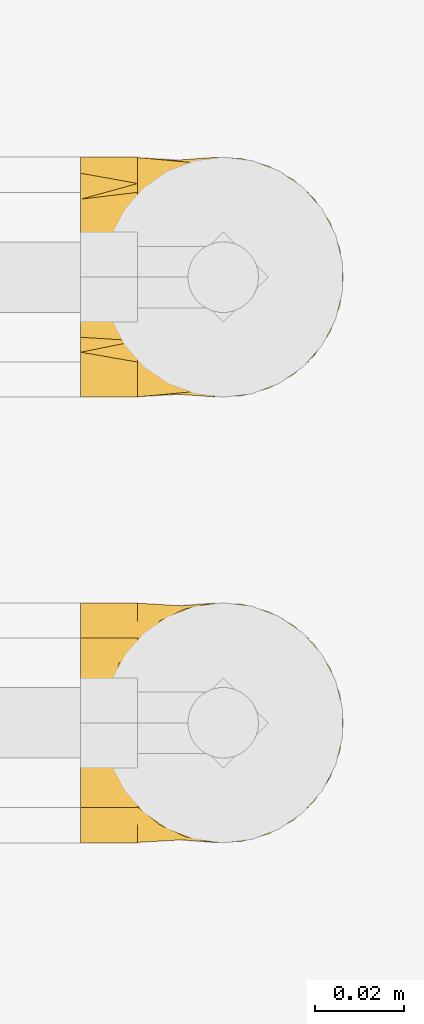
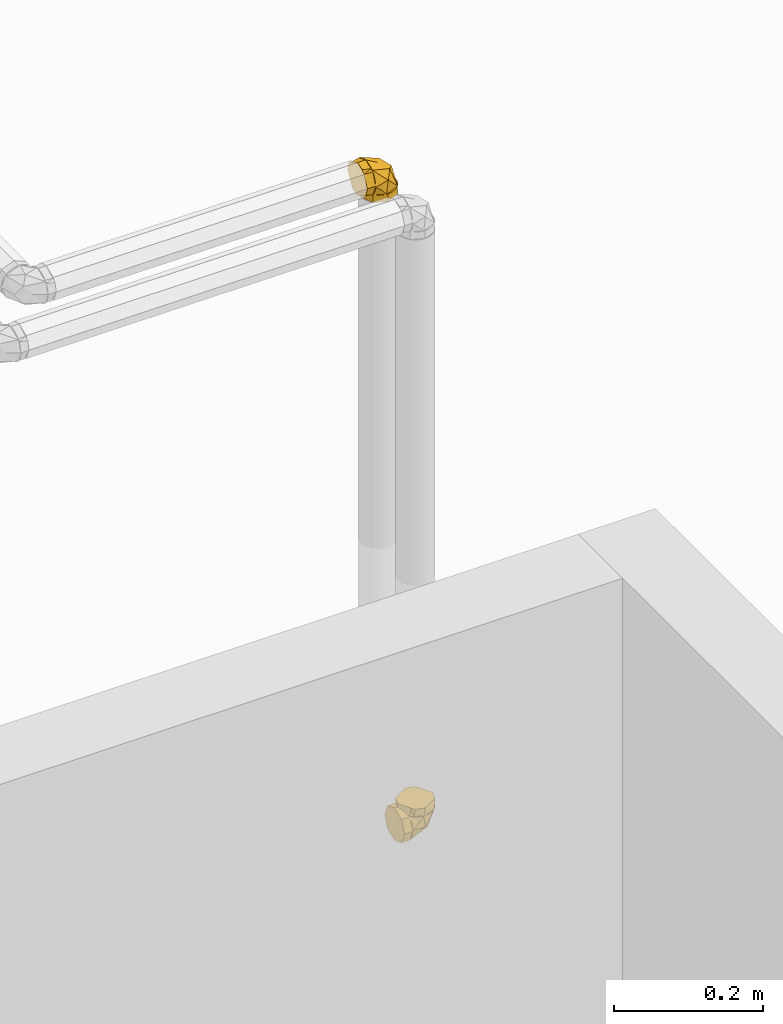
# One storey, part 297 of 652: 2 coverings.
"""IFC2X3 building model written with IfcOpenShell, lengths in millimetres."""

from ifc_helpers import new_model, entity, si_unit, converted_unit, direction, frame, origin, place, context, subcontext, project, spatial, face_set, surface_model, material, type_object, element, save


model = new_model("IFC2X3")

# Units and contexts
model_context = context("Model", 3, precision=0.01, world=frame((0.0, 0.0, 308426.39999999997)), true_north=direction((6.123233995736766e-17, 1.0)))
plan_context = context("Plan", 3, precision=0.01, world=frame((0.0, 0.0, 308426.39999999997)), true_north=direction((6.123233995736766e-17, 1.0)))
body_context = subcontext(model_context, "Body", "Model", "MODEL_VIEW")
ifc_project = project(units=[si_unit("LENGTHUNIT", "METRE", prefix="MILLI"), si_unit("AREAUNIT", "SQUARE_METRE"), si_unit("VOLUMEUNIT", "CUBIC_METRE"), converted_unit("PLANEANGLEUNIT", "DEGREE", entity("IfcPlaneAngleMeasure", 0.017453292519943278), si_unit("PLANEANGLEUNIT", "RADIAN"), dimensions=[0, 0, 0, 0, 0, 0, 0])], contexts=[model_context, plan_context])

# Site, building, storey
site_placement = place(None, origin())
site = spatial("IfcSite", under=ifc_project, at=site_placement, Name="Default", CompositionType="ELEMENT")
building_placement = place(site_placement, origin())
building = spatial("IfcBuilding", under=site, at=building_placement, CompositionType="ELEMENT")
storey_placement = place(building_placement, frame((0.0, 0.0, 1730.6999999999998)))
storey = spatial("IfcBuildingStorey", under=building, at=storey_placement, Name="EG_Produktion_FFB", CompositionType="ELEMENT", Elevation=1730.6999999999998)

# Coverings
ifc_material = material(Name="Dämmung - Armaflex-Schlauch")
covering_type = type_object("IfcCoveringType", Name="Rohrdämmung außen:Armaflex-Schlauch", PredefinedType="INSULATION")
covering_1_placement = place(storey_placement, frame((40702.378433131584, 36553.50378550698, 3728.532772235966)))
element("IfcCovering", 1, at=covering_1_placement, inside=storey, type_object=covering_type, material=ifc_material, Name="Rohrdämmung außen:Armaflex-Schlauch", ObjectType="Rohrdämmung außen:Armaflex-Schlauch", PredefinedType="INSULATION", context=body_context, shape_type="SurfaceModel", body=[
    surface_model("IfcFaceBasedSurfaceModel", [(12.766249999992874, 47.40912251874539, -47.750272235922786), (17.724287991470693, 51.38658262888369, -47.75027223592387), (23.47627931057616, 54.0915642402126, -47.75027223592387), (29.70195853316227, 55.37345654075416, -47.75027223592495), (36.054685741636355, 55.16088498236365, -47.75027223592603), (42.1807471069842, 53.46568534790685, -47.75027223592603), (47.7390493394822, 50.38224474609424, -47.75027223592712), (52.420111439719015, 46.08224622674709, -47.75027223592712), (55.963296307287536, 40.80510963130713, -47.7502722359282), (58.17132276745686, 34.84466092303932, -47.7502722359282), (58.921249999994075, 28.532772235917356, -47.7502722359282), (58.17132276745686, 22.220883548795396, -47.7502722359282), (55.963296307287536, 16.26043484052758, -47.7502722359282), (52.420111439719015, 10.983298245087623, -47.75027223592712), (47.7390493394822, 6.683299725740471, -47.75027223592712), (42.1807471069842, 3.5998591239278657, -47.75027223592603), (36.054685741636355, 1.9046594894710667, -47.75027223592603), (29.70195853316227, 1.6920879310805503, -47.75027223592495), (23.47627931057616, 2.973980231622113, -47.75027223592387), (17.724287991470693, 5.678961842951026, -47.75027223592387), (12.766249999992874, 9.65642195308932, -47.750272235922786), (12.766249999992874, 5.678961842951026, -42.79223424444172), (12.766249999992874, 2.973980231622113, -37.04024292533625), (12.766249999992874, 1.6920879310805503, -30.814563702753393), (12.766249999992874, 1.9046594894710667, -24.46183649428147), (12.766249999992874, 3.5998591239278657, -18.33577512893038), (12.766249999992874, 6.683299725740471, -12.777472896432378), (12.766250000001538, 10.983298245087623, -8.096410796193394), (12.766250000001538, 16.26043484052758, -4.553225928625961), (12.766250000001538, 22.220883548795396, -2.3451994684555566), (12.766250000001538, 28.532772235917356, -1.5952722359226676), (12.766250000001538, 34.84466092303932, -2.3451994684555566), (12.766250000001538, 40.80510963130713, -4.553225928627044), (12.766250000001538, 46.08224622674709, -8.096410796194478), (12.766249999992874, 50.38224474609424, -12.777472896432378), (12.766249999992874, 53.46568534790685, -18.33577512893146), (12.766249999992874, 55.16088498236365, -24.46183649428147), (12.766249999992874, 55.37345654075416, -30.814563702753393), (12.766249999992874, 54.0915642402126, -37.04024292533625), (12.766249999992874, 51.38658262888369, -42.7922342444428), (21.44745798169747, 54.78959217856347, -37.80729463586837), (52.738571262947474, 28.53305531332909, -24.672631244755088), (41.06021432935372, 50.72704945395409, -47.75029237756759), (33.56764841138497, 53.46641712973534, -26.950980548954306), (41.841561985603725, 42.781022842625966, -17.332381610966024), (31.02826852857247, 28.53305531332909, -12.1396753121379), (12.764267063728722, 50.72704945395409, -19.455507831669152), (41.841561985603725, 14.285087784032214, -17.332381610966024), (33.56764841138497, 3.599693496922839, -26.950980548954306), (21.44745798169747, 2.276518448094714, -37.80729463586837), (12.764267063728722, 6.336735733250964, -19.455507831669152), (41.06021432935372, 6.336735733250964, -47.75029237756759), (58.921250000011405, 28.532772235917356, -60.51652223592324), (56.948797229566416, 23.77085000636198, -60.51652223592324), (54.97634445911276, 19.008927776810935, -60.51652223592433), (53.00389168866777, 14.247005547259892, -60.51652223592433), (51.03143891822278, 9.485083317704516, -60.51652223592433), (46.26951668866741, 7.512630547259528, -60.51652223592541), (41.507594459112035, 5.540177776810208, -60.51652223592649), (36.74567222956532, 3.567725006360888, -60.51652223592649), (31.983750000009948, 1.5952722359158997, -60.516522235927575), (27.221827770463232, 3.5677250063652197, -60.516522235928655), (22.459905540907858, 5.540177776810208, -60.516522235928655), (17.697983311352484, 7.512630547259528, -60.51652223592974), (12.936061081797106, 9.485083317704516, -60.51652223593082), (10.963608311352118, 14.247005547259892, -60.51652223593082), (8.99115554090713, 19.008927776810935, -60.51652223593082), (7.018702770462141, 23.77085000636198, -60.51652223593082), (5.046250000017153, 28.532772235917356, -60.5165222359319), (7.018702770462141, 33.2946944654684, -60.51652223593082), (8.99115554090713, 38.05661669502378, -60.51652223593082), (10.963608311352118, 42.81853892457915, -60.51652223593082), (12.936061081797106, 47.5804611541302, -60.51652223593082), (17.697983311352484, 49.552913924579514, -60.51652223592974), (22.459905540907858, 51.5253666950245, -60.516522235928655), (27.221827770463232, 53.49781946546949, -60.516522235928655), (31.983750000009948, 55.47027223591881, -60.516522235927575), (36.74567222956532, 53.49781946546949, -60.51652223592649), (41.507594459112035, 51.5253666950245, -60.51652223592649), (46.26951668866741, 49.552913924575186, -60.51652223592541), (51.03143891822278, 47.5804611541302, -60.51652223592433), (53.00389168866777, 42.81853892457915, -60.51652223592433), (54.97634445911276, 38.05661669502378, -60.51652223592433), (56.94879722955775, 33.2946944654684, -60.51652223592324), (58.92125000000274, 28.532772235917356, -47.75027223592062), (56.948797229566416, 33.2946944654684, -47.75027223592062), (54.97634445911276, 38.05661669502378, -47.75027223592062), (53.00389168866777, 42.81853892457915, -47.750272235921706), (51.03143891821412, 47.5804611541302, -47.750272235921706), (45.26304951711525, 49.96980627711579, -47.750272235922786), (39.49466011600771, 52.35915140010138, -47.75027223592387), (31.983750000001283, 55.47027223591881, -47.75027223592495), (27.22182777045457, 53.49781946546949, -47.75027223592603), (22.459905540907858, 51.5253666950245, -47.75027223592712), (17.697983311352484, 49.552913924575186, -47.7502722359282), (12.936061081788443, 47.5804611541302, -47.7502722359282), (10.546715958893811, 41.812071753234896, -47.7502722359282), (8.157370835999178, 36.04368235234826, -47.75027223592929), (5.046250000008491, 28.532772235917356, -47.75027223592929), (7.018702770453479, 23.77085000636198, -47.75027223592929), (8.99115554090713, 19.008927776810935, -47.75027223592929), (10.963608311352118, 14.24700554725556, -47.7502722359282), (12.936061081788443, 9.485083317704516, -47.7502722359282), (18.704450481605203, 7.095738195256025, -47.75027223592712), (24.472839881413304, 4.706393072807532, -47.75027223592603), (31.983750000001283, 1.5952722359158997, -47.75027223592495), (36.74567222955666, 3.567725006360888, -47.75027223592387), (41.507594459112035, 5.540177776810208, -47.750272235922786), (46.26951668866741, 7.512630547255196, -47.750272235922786), (51.03143891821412, 9.485083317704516, -47.750272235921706), (53.420784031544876, 15.253472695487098, -47.75027223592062), (55.810129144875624, 21.021862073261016, -47.75027223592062), (0.0, 28.532772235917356, -1.5952722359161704), (0.0, 34.36491206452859, -4.96245973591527), (0.0, 40.197051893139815, -8.329647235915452), (0.0, 46.02919172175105, -11.696834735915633), (0.0, 51.86133155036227, -15.064022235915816), (0.0, 53.66580189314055, -21.79839723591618), (0.0, 55.47027223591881, -28.532772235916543), (0.0, 52.10308473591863, -34.36491206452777), (0.0, 48.73589723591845, -40.197051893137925), (0.0, 45.368709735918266, -46.02919172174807), (0.0, 42.00152223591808, -51.861331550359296), (0.0, 35.26714723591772, -53.66580189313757), (0.0, 28.532772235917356, -55.470272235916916), (0.0, 22.700632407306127, -52.10308473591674), (0.0, 16.868492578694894, -48.73589723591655), (0.0, 11.036352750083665, -45.36870973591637), (0.0, 5.204212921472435, -42.00152223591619), (0.0, 3.3997425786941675, -35.26714723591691), (0.0, 1.5952722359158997, -28.532772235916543), (0.0, 4.962459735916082, -22.700632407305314), (0.0, 8.329647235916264, -16.868492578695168), (0.0, 11.696834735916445, -11.036352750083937), (0.0, 15.064022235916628, -5.204212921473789), (0.0, 21.79839723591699, -3.399742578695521), (12.766250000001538, 28.532772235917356, -1.5952722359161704), (12.766250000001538, 23.770850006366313, -3.567725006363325), (12.766250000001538, 19.008927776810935, -5.540177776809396), (12.766250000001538, 14.24700554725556, -7.51263054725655), (12.766250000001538, 9.485083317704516, -9.485083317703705), (12.766250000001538, 7.512630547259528, -14.247005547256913), (12.766250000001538, 5.540177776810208, -19.008927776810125), (12.766250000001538, 3.567725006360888, -23.770850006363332), (12.766250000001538, 1.5952722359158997, -28.532772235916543), (12.766250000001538, 3.567725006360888, -33.29469446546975), (12.766250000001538, 5.540177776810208, -38.05661669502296), (12.766250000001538, 7.512630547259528, -42.818538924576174), (12.766250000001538, 9.485083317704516, -47.58046115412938), (12.766250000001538, 14.247005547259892, -49.552913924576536), (12.766250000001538, 19.008927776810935, -51.52536669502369), (12.766250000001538, 23.77085000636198, -53.49781946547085), (12.766250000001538, 28.532772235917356, -55.470272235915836), (12.766250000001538, 33.29469446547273, -53.49781946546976), (12.766250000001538, 38.05661669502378, -51.52536669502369), (12.766250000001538, 42.81853892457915, -49.552913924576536), (12.766250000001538, 47.5804611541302, -47.58046115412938), (12.766250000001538, 49.552913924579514, -42.818538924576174), (12.766250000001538, 51.5253666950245, -38.05661669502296), (12.766250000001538, 53.49781946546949, -33.29469446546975), (12.766250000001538, 55.47027223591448, -28.532772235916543), (12.766250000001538, 53.49781946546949, -23.770850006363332), (12.766250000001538, 51.5253666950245, -19.008927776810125), (12.766250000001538, 49.552913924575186, -14.247005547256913), (12.766250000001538, 47.5804611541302, -9.485083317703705), (12.766250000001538, 42.81853892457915, -7.51263054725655), (12.766250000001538, 38.05661669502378, -5.540177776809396), (12.766250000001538, 33.2946944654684, -3.567725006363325)], [face_set([[[0, 1, 2, 3, 4, 5, 6, 7, 8, 9, 10, 11, 12, 13, 14, 15, 16, 17, 18, 19]], [[20, 21, 22, 23, 24, 25, 26, 27, 28, 29, 30, 31, 32, 33, 34, 35, 36, 37, 38, 39]], [[0, 40, 3]], [[10, 7, 41]], [[42, 3, 43]], [[40, 43, 3]], [[37, 40, 0]], [[7, 43, 44]], [[45, 41, 44]], [[7, 44, 41]], [[33, 30, 45]], [[45, 44, 33]], [[43, 33, 44]], [[43, 37, 46]], [[43, 7, 42]], [[37, 43, 40]], [[46, 33, 43]], [[13, 10, 41]], [[27, 47, 45]], [[45, 30, 27]], [[48, 47, 27]], [[49, 48, 23]], [[48, 50, 23]], [[45, 47, 41]], [[20, 49, 23]], [[47, 48, 13]], [[17, 49, 20]], [[41, 47, 13]], [[48, 17, 51]], [[48, 27, 50]], [[17, 48, 49]], [[51, 13, 48]]]), face_set([[[52, 53, 54, 55, 56, 57, 58, 59, 60, 61, 62, 63, 64, 65, 66, 67, 68, 69, 70, 71, 72, 73, 74, 75, 76, 77, 78, 79, 80, 81, 82, 83]], [[84, 85, 86, 87, 88, 89, 90, 91, 92, 93, 94, 95, 96, 97, 98, 99, 100, 101, 102, 103, 104, 105, 106, 107, 108, 109, 110, 111]], [[111, 110, 109, 56, 55, 54, 53, 52, 84]], [[56, 109, 108, 107, 106, 105, 60, 59, 58, 57]], [[104, 103, 102, 64, 63, 62, 61, 60, 105]], [[64, 102, 101, 100, 99, 98, 68, 67, 66, 65]], [[97, 96, 95, 72, 71, 70, 69, 68, 98]], [[72, 95, 94, 93, 92, 91, 76, 75, 74, 73]], [[90, 89, 88, 80, 79, 78, 77, 76, 91]], [[80, 88, 87, 86, 85, 84, 52, 83, 82, 81]]]), face_set([[[112, 113, 114, 115, 116, 117, 118, 119, 120, 121, 122, 123, 124, 125, 126, 127, 128, 129, 130, 131, 132, 133, 134, 135]], [[136, 137, 138, 139, 140, 141, 142, 143, 144, 145, 146, 147, 148, 149, 150, 151, 152, 153, 154, 155, 156, 157, 158, 159, 160, 161, 162, 163, 164, 165, 166, 167]], [[155, 121, 156]], [[118, 159, 119]], [[159, 158, 119]], [[123, 154, 153]], [[153, 152, 124]], [[121, 155, 122]], [[120, 158, 157]], [[118, 160, 159]], [[158, 120, 119]], [[124, 123, 153]], [[157, 156, 121]], [[155, 154, 122]], [[123, 122, 154]], [[120, 157, 121]], [[163, 115, 164]], [[112, 167, 113]], [[167, 166, 113]], [[117, 162, 161]], [[161, 160, 118]], [[115, 163, 116]], [[114, 166, 165]], [[112, 136, 167]], [[166, 114, 113]], [[118, 117, 161]], [[165, 164, 115]], [[163, 162, 116]], [[117, 116, 162]], [[114, 165, 115]], [[139, 133, 140]], [[130, 143, 131]], [[143, 142, 131]], [[135, 138, 137]], [[137, 136, 112]], [[133, 139, 134]], [[132, 142, 141]], [[130, 144, 143]], [[142, 132, 131]], [[112, 135, 137]], [[141, 140, 133]], [[139, 138, 134]], [[135, 134, 138]], [[132, 141, 133]], [[147, 127, 148]], [[124, 151, 125]], [[151, 150, 125]], [[129, 146, 145]], [[145, 144, 130]], [[127, 147, 128]], [[126, 150, 149]], [[124, 152, 151]], [[150, 126, 125]], [[130, 129, 145]], [[149, 148, 127]], [[147, 146, 128]], [[129, 128, 146]], [[126, 149, 127]]])]),
])
covering_2_placement = place(storey_placement, frame((40702.37843313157, 36453.503785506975, 2671.4672277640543)))
element("IfcCovering", 2, at=covering_2_placement, inside=storey, type_object=covering_type, material=ifc_material, Name="Rohrdämmung außen:Armaflex-Schlauch", ObjectType="Rohrdämmung außen:Armaflex-Schlauch", PredefinedType="INSULATION", context=body_context, shape_type="SurfaceModel", body=[
    surface_model("IfcFaceBasedSurfaceModel", [(12.766250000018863, 47.40912251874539, 47.75027223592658), (12.766250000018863, 51.38658262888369, 42.79223424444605), (12.766250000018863, 54.0915642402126, 37.040242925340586), (12.766250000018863, 55.37345654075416, 30.81456370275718), (12.766250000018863, 55.16088498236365, 24.46183649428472), (12.766250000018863, 53.46568534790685, 18.33577512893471), (12.766250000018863, 50.38224474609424, 12.777472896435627), (12.766250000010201, 46.08224622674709, 8.096410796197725), (12.766250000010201, 40.80510963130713, 4.553225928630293), (12.766250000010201, 34.84466092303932, 2.3451994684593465), (12.766250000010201, 28.532772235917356, 1.5952722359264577), (12.766250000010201, 22.220883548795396, 2.3451994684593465), (12.766250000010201, 16.26043484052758, 4.553225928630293), (12.766250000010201, 10.983298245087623, 8.096410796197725), (12.766250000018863, 6.683299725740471, 12.777472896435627), (12.766250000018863, 3.5998591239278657, 18.33577512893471), (12.766250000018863, 1.9046594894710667, 24.46183649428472), (12.766250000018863, 1.6920879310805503, 30.81456370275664), (12.766250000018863, 2.973980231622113, 37.04024292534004), (12.766250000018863, 5.678961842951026, 42.79223424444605), (12.766250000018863, 9.65642195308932, 47.75027223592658), (17.72428799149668, 5.678961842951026, 47.75027223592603), (23.47627931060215, 2.973980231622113, 47.75027223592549), (29.70195853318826, 1.6920879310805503, 47.75027223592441), (36.05468574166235, 1.9046594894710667, 47.75027223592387), (42.18074710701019, 3.5998591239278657, 47.750272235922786), (47.73904933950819, 6.683299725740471, 47.750272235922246), (52.42011143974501, 10.983298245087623, 47.750272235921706), (55.96329630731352, 16.26043484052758, 47.750272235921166), (58.17132276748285, 22.220883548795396, 47.750272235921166), (58.921250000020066, 28.532772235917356, 47.750272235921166), (58.17132276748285, 34.84466092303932, 47.750272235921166), (55.96329630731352, 40.80510963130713, 47.750272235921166), (52.42011143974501, 46.08224622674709, 47.750272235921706), (47.73904933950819, 50.38224474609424, 47.750272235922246), (42.18074710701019, 53.46568534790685, 47.750272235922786), (36.05468574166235, 55.16088498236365, 47.75027223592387), (29.70195853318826, 55.37345654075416, 47.75027223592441), (23.47627931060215, 54.0915642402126, 47.75027223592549), (17.72428799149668, 51.38658262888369, 47.75027223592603), (22.70784616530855, 54.788719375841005, 39.069823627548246), (35.84192819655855, 28.532182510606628, 7.779001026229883), (12.764267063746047, 50.728502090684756, 19.45561388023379), (33.567648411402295, 53.46554432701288, 26.951086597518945), (43.1856659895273, 42.7801500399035, 18.67484758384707), (48.3760468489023, 28.532182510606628, 29.48668764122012), (41.06021432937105, 50.728502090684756, 47.75039842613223), (43.1856659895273, 14.284214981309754, 18.67484758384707), (33.567648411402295, 3.598820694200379, 26.951086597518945), (22.70784616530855, 2.275645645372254, 39.069823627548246), (41.06021432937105, 6.338188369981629, 47.75039842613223), (12.764267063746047, 6.338188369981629, 19.45561388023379), (0.0, 28.532772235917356, 1.5952722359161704), (0.0, 23.77085000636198, 3.567725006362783), (0.0, 19.008927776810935, 5.540177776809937), (0.0, 14.247005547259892, 7.51263054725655), (0.0, 9.485083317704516, 9.485083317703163), (0.0, 7.512630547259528, 14.247005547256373), (0.0, 5.540177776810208, 19.008927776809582), (0.0, 3.567725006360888, 23.770850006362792), (0.0, 1.5952722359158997, 28.532772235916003), (0.0, 3.5677250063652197, 33.29469446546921), (0.0, 5.540177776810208, 38.05661669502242), (0.0, 7.512630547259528, 42.818538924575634), (0.0, 9.485083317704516, 47.5804611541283), (0.0, 14.247005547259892, 49.552913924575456), (0.0, 19.008927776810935, 51.525366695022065), (0.0, 23.77085000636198, 53.49781946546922), (0.0, 28.532772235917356, 55.470272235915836), (0.0, 33.2946944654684, 53.49781946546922), (0.0, 38.05661669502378, 51.525366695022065), (0.0, 42.81853892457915, 49.552913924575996), (0.0, 47.5804611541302, 47.58046115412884), (0.0, 49.552913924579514, 42.818538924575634), (0.0, 51.5253666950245, 38.05661669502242), (0.0, 53.49781946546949, 33.29469446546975), (0.0, 55.47027223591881, 28.532772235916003), (0.0, 53.49781946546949, 23.770850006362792), (0.0, 51.5253666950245, 19.008927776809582), (0.0, 49.552913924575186, 14.247005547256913), (0.0, 47.5804611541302, 9.485083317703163), (0.0, 42.81853892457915, 7.512630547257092), (0.0, 38.05661669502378, 5.540177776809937), (0.0, 33.2946944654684, 3.567725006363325), (12.766250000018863, 28.532772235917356, 1.5952722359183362), (12.766250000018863, 33.2946944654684, 3.567725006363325), (12.766250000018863, 38.05661669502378, 5.540177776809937), (12.766250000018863, 42.81853892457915, 7.512630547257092), (12.766250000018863, 47.5804611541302, 9.485083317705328), (12.766250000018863, 49.96980627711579, 15.253472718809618), (12.766250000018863, 52.35915140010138, 21.021862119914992), (12.766250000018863, 55.47027223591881, 28.532772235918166), (12.766250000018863, 53.49781946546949, 33.29469446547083), (12.766250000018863, 51.5253666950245, 38.05661669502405), (12.766250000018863, 49.552913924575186, 42.818538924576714), (12.766250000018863, 47.5804611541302, 47.58046115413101), (12.766250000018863, 41.812071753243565, 49.96980627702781), (12.766250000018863, 36.043682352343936, 52.359151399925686), (12.766250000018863, 28.532772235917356, 55.470272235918), (12.766250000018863, 23.77085000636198, 53.49781946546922), (12.766250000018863, 19.008927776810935, 51.52536669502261), (12.766250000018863, 14.24700554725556, 49.552913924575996), (12.766250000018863, 9.485083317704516, 47.58046115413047), (12.766250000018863, 7.095738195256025, 41.81207175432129), (12.766250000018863, 4.706393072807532, 36.04368235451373), (12.766250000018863, 1.5952722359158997, 28.532772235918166), (12.766250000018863, 3.567725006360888, 23.77085000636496), (12.766250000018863, 5.540177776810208, 19.008927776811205), (12.766250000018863, 7.512630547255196, 14.247005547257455), (12.766250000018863, 9.485083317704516, 9.485083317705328), (12.766250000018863, 15.253472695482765, 7.095738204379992), (12.766250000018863, 21.021862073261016, 4.706393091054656), (58.92125000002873, 28.532772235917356, 60.516522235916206), (55.55406250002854, 34.36491206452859, 60.5165222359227), (52.186875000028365, 40.197051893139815, 60.51652223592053), (48.81968750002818, 46.02919172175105, 60.516522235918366), (45.452500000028, 51.86133155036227, 60.516522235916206), (38.718125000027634, 53.66580189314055, 60.516522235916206), (31.98375000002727, 55.47027223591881, 60.516522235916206), (26.151610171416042, 52.10308473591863, 60.51652223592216), (20.319470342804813, 48.73589723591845, 60.51652223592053), (14.487330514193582, 45.368709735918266, 60.516522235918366), (8.655190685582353, 42.00152223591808, 60.516522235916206), (6.850720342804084, 35.26714723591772, 60.516522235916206), (5.046250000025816, 28.532772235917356, 60.516522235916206), (8.413437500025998, 22.700632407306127, 60.5165222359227), (11.78062500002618, 16.868492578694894, 60.51652223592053), (15.147812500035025, 11.036352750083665, 60.51652223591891), (18.515000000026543, 5.204212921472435, 60.516522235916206), (25.24937500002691, 3.3997425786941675, 60.516522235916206), (31.98375000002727, 1.5952722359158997, 60.516522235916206), (37.815889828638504, 4.962459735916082, 60.5165222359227), (43.64802965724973, 8.329647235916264, 60.51652223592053), (49.48016948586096, 11.696834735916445, 60.51652223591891), (55.312309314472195, 15.064022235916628, 60.516522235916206), (57.11677965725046, 21.79839723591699, 60.516522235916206), (58.92125000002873, 28.532772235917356, 47.75027223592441), (56.94879722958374, 23.770850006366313, 47.75027223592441), (54.97634445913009, 19.008927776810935, 47.75027223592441), (53.0038916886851, 14.24700554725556, 47.75027223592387), (51.03143891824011, 9.485083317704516, 47.75027223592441), (46.26951668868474, 7.512630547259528, 47.75027223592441), (41.50759445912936, 5.540177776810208, 47.75027223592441), (36.745672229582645, 3.567725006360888, 47.75027223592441), (31.98375000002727, 1.5952722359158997, 47.75027223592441), (27.22182777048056, 3.567725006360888, 47.75027223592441), (22.459905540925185, 5.540177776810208, 47.75027223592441), (17.697983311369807, 7.512630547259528, 47.75027223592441), (12.936061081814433, 9.485083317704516, 47.75027223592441), (10.963608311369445, 14.247005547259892, 47.75027223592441), (8.991155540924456, 19.008927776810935, 47.75027223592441), (7.018702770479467, 23.77085000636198, 47.75027223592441), (5.046250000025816, 28.532772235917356, 47.75027223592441), (7.018702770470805, 33.29469446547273, 47.75027223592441), (8.991155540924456, 38.05661669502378, 47.75027223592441), (10.963608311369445, 42.81853892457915, 47.75027223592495), (12.936061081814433, 47.5804611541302, 47.75027223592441), (17.697983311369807, 49.552913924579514, 47.75027223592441), (22.459905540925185, 51.5253666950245, 47.75027223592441), (27.221827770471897, 53.49781946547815, 47.75027223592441), (31.98375000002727, 55.47027223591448, 47.75027223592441), (36.745672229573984, 53.49781946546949, 47.75027223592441), (41.50759445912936, 51.5253666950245, 47.75027223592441), (46.26951668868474, 49.552913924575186, 47.75027223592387), (51.03143891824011, 47.5804611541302, 47.75027223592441), (53.0038916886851, 42.81853892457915, 47.75027223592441), (54.97634445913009, 38.05661669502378, 47.75027223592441), (56.94879722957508, 33.2946944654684, 47.75027223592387)], [face_set([[[0, 1, 2, 3, 4, 5, 6, 7, 8, 9, 10, 11, 12, 13, 14, 15, 16, 17, 18, 19]], [[20, 21, 22, 23, 24, 25, 26, 27, 28, 29, 30, 31, 32, 33, 34, 35, 36, 37, 38, 39]], [[0, 40, 3]], [[10, 7, 41]], [[42, 3, 43]], [[40, 43, 3]], [[37, 40, 0]], [[7, 43, 44]], [[45, 41, 44]], [[7, 44, 41]], [[33, 30, 45]], [[45, 44, 33]], [[43, 33, 44]], [[43, 37, 46]], [[43, 7, 42]], [[37, 43, 40]], [[46, 33, 43]], [[13, 10, 41]], [[27, 47, 45]], [[45, 30, 27]], [[48, 47, 27]], [[49, 48, 23]], [[48, 50, 23]], [[45, 47, 41]], [[20, 49, 23]], [[47, 48, 13]], [[17, 49, 20]], [[41, 47, 13]], [[48, 17, 51]], [[48, 27, 50]], [[17, 48, 49]], [[51, 13, 48]]]), face_set([[[52, 53, 54, 55, 56, 57, 58, 59, 60, 61, 62, 63, 64, 65, 66, 67, 68, 69, 70, 71, 72, 73, 74, 75, 76, 77, 78, 79, 80, 81, 82, 83]], [[84, 85, 86, 87, 88, 89, 90, 91, 92, 93, 94, 95, 96, 97, 98, 99, 100, 101, 102, 103, 104, 105, 106, 107, 108, 109, 110, 111]], [[111, 110, 109, 56, 55, 54, 53, 52, 84]], [[56, 109, 108, 107, 106, 105, 60, 59, 58, 57]], [[104, 103, 102, 64, 63, 62, 61, 60, 105]], [[64, 102, 101, 100, 99, 98, 68, 67, 66, 65]], [[97, 96, 95, 72, 71, 70, 69, 68, 98]], [[72, 95, 94, 93, 92, 91, 76, 75, 74, 73]], [[90, 89, 88, 80, 79, 78, 77, 76, 91]], [[80, 88, 87, 86, 85, 84, 52, 83, 82, 81]]]), face_set([[[112, 113, 114, 115, 116, 117, 118, 119, 120, 121, 122, 123, 124, 125, 126, 127, 128, 129, 130, 131, 132, 133, 134, 135]], [[136, 137, 138, 139, 140, 141, 142, 143, 144, 145, 146, 147, 148, 149, 150, 151, 152, 153, 154, 155, 156, 157, 158, 159, 160, 161, 162, 163, 164, 165, 166, 167]], [[155, 121, 156]], [[118, 159, 119]], [[159, 158, 119]], [[123, 154, 153]], [[153, 152, 124]], [[121, 155, 122]], [[120, 158, 157]], [[118, 160, 159]], [[158, 120, 119]], [[124, 123, 153]], [[157, 156, 121]], [[155, 154, 122]], [[123, 122, 154]], [[120, 157, 121]], [[163, 115, 164]], [[112, 167, 113]], [[167, 166, 113]], [[117, 162, 161]], [[161, 160, 118]], [[115, 163, 116]], [[114, 166, 165]], [[112, 136, 167]], [[166, 114, 113]], [[118, 117, 161]], [[165, 164, 115]], [[163, 162, 116]], [[117, 116, 162]], [[114, 165, 115]], [[139, 133, 140]], [[130, 143, 131]], [[143, 142, 131]], [[135, 138, 137]], [[137, 136, 112]], [[133, 139, 134]], [[132, 142, 141]], [[130, 144, 143]], [[142, 132, 131]], [[112, 135, 137]], [[141, 140, 133]], [[139, 138, 134]], [[135, 134, 138]], [[132, 141, 133]], [[147, 127, 148]], [[124, 151, 125]], [[151, 150, 125]], [[129, 146, 145]], [[145, 144, 130]], [[127, 147, 128]], [[126, 150, 149]], [[124, 152, 151]], [[150, 126, 125]], [[130, 129, 145]], [[149, 148, 127]], [[147, 146, 128]], [[129, 128, 146]], [[126, 149, 127]]])]),
])

save(model, "model.ifc")
